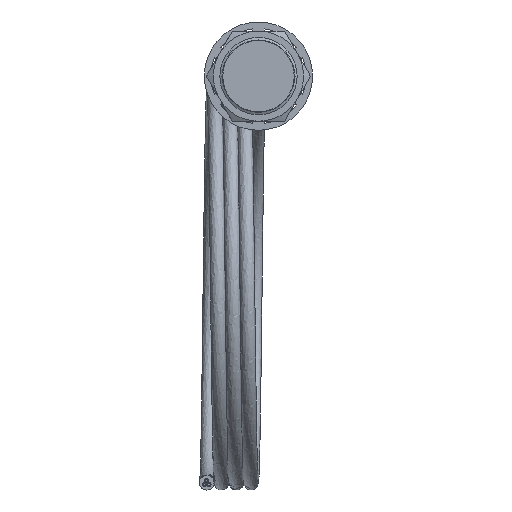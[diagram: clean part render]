
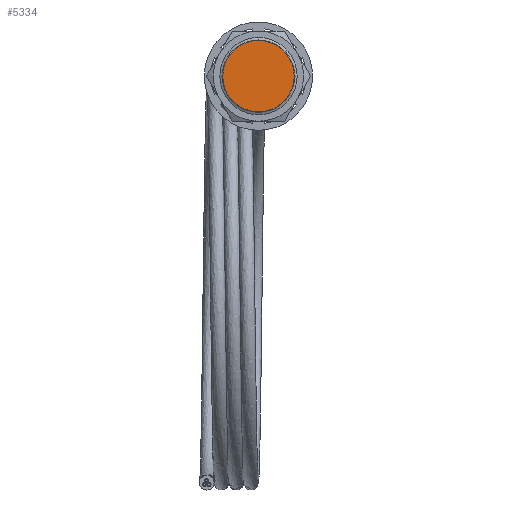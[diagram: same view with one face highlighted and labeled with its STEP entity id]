
A CAD part, left-side view. The second image highlights one B-rep face of the part: STEP entity #5334.
In plain terms, the highlighted planar face has unit normal (-1, 0, 0).
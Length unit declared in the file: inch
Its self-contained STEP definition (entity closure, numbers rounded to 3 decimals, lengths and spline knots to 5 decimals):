
#262 = VERTEX_POINT ( 'NONE', #5545 ) ;
#736 = CARTESIAN_POINT ( 'NONE',  ( 0.84392, 4.09716, 0.28593 ) ) ;
#882 = CIRCLE ( 'NONE', #883, 0.5465 ) ;
#883 = AXIS2_PLACEMENT_3D ( 'NONE', #884, #885, #886 ) ;
#884 = CARTESIAN_POINT ( 'NONE',  ( 0.84392, 4.09716, -0.26057 ) ) ;
#885 = DIRECTION ( 'NONE',  ( 1., 0., 0. ) ) ;
#886 = DIRECTION ( 'NONE',  ( 0., 0., 1. ) ) ;
#17622 = VERTEX_POINT ( 'NONE', #736 ) ;
#17884 = EDGE_CURVE ( 'NONE', #262, #17622, #882, .T. ) ;
#4827 = ORIENTED_EDGE ( 'NONE', *, *, #17884, .F. ) ;
#4990 = EDGE_CURVE ( 'NONE', #17622, #262, #10980, .T. ) ;
#5102 = ORIENTED_EDGE ( 'NONE', *, *, #4990, .F. ) ;
#5250 = EDGE_LOOP ( 'NONE', ( #5102, #4827 ) ) ;
#5334 = ADVANCED_FACE ( 'NONE', ( #11794 ), #11795, .T. ) ;
#5545 = CARTESIAN_POINT ( 'NONE',  ( 0.84392, 4.09716, -0.80707 ) ) ;
#10980 = CIRCLE ( 'NONE', #10981, 0.5465 ) ;
#10981 = AXIS2_PLACEMENT_3D ( 'NONE', #10982, #10983, #10984 ) ;
#10982 = CARTESIAN_POINT ( 'NONE',  ( 0.84392, 4.09716, -0.26057 ) ) ;
#10983 = DIRECTION ( 'NONE',  ( 1., 0., 0. ) ) ;
#10984 = DIRECTION ( 'NONE',  ( 0., 0., 1. ) ) ;
#11794 = FACE_OUTER_BOUND ( 'NONE', #5250, .T. ) ;
#11795 = PLANE ( 'NONE',  #11796 ) ;
#11796 = AXIS2_PLACEMENT_3D ( 'NONE', #11797, #11798, #11799 ) ;
#11797 = CARTESIAN_POINT ( 'NONE',  ( 0.84392, 4.09716, -0.26057 ) ) ;
#11798 = DIRECTION ( 'NONE',  ( -1., 0., 0. ) ) ;
#11799 = DIRECTION ( 'NONE',  ( 0., 0., 1. ) ) ;
